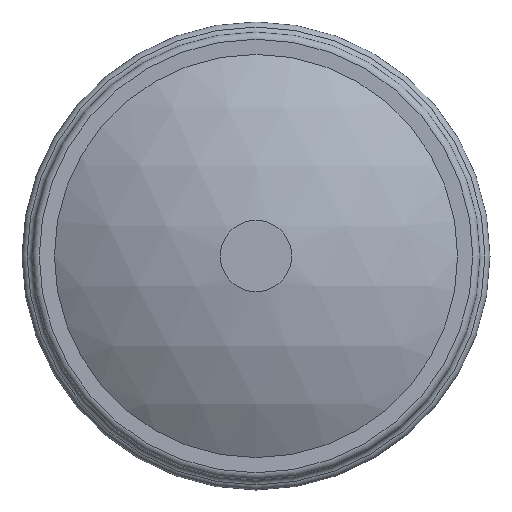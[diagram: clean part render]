
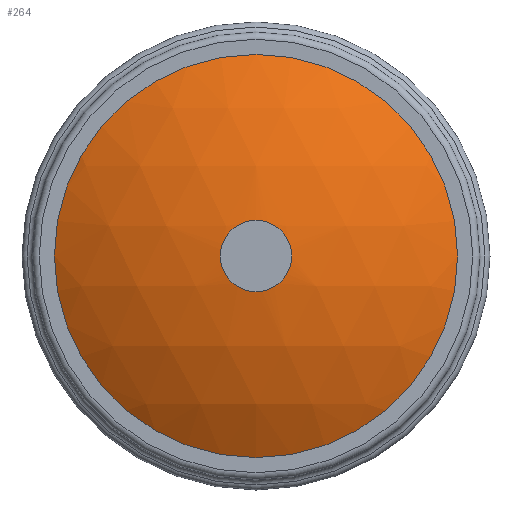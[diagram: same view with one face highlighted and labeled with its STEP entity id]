
A CAD part, left-side view. The second image highlights one B-rep face of the part: STEP entity #264.
In plain terms, the highlighted spherical face has radius 179.578 mm.
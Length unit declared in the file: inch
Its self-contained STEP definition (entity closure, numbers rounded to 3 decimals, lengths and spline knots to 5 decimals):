
#45=SPHERICAL_SURFACE('',#316,7.07);
#48=FACE_BOUND('',#80,.T.);
#65=FACE_OUTER_BOUND('',#79,.T.);
#79=EDGE_LOOP('',(#215));
#80=EDGE_LOOP('',(#216));
#95=CIRCLE('',#291,0.6575);
#103=CIRCLE('',#303,3.71546);
#122=VERTEX_POINT('',#458);
#129=VERTEX_POINT('',#479);
#146=EDGE_CURVE('',#122,#122,#95,.T.);
#155=EDGE_CURVE('',#129,#129,#103,.T.);
#215=ORIENTED_EDGE('',*,*,#155,.F.);
#216=ORIENTED_EDGE('',*,*,#146,.T.);
#264=ADVANCED_FACE('',(#65,#48),#45,.T.);
#291=AXIS2_PLACEMENT_3D('',#460,#349,#350);
#303=AXIS2_PLACEMENT_3D('',#480,#374,#375);
#316=AXIS2_PLACEMENT_3D('',#501,#401,#402);
#349=DIRECTION('center_axis',(1.,0.,0.));
#350=DIRECTION('ref_axis',(0.,0.,1.));
#374=DIRECTION('center_axis',(1.,0.,0.));
#375=DIRECTION('ref_axis',(0.,0.,-1.));
#401=DIRECTION('center_axis',(0.,0.,1.));
#402=DIRECTION('ref_axis',(-1.,-0.003,0.));
#458=CARTESIAN_POINT('',(0.03064,0.,-0.6575));
#460=CARTESIAN_POINT('Origin',(0.03064,0.,
0.));
#479=CARTESIAN_POINT('',(1.055,3.71546,0.));
#480=CARTESIAN_POINT('Origin',(1.055,0.,0.));
#501=CARTESIAN_POINT('Origin',(7.07,0.,0.));
